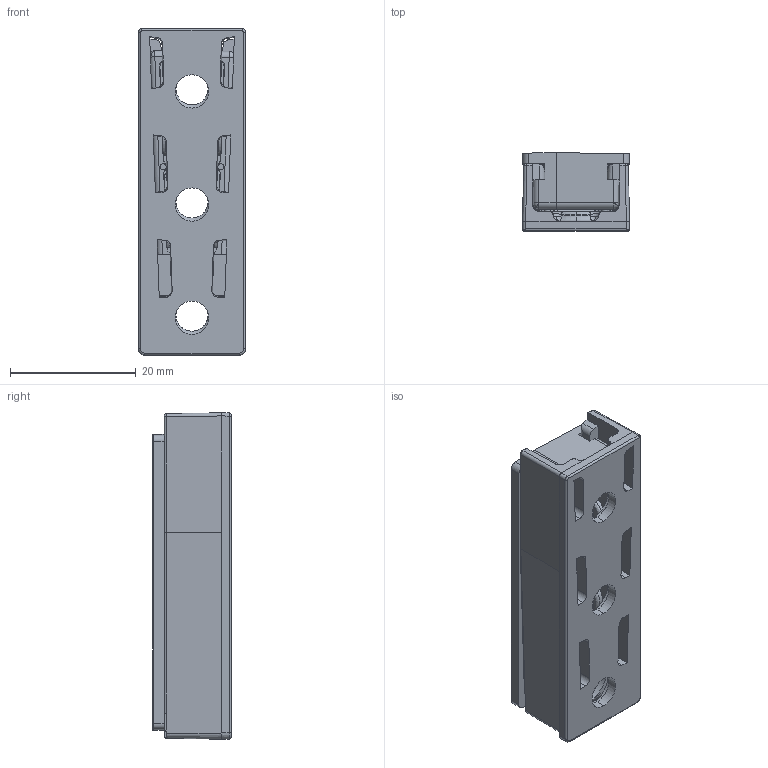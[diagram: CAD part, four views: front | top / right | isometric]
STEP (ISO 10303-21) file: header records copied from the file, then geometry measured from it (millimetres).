
FILE_DESCRIPTION(('STEP AP242'),'1');
FILE_NAME('OPO_49.101.10.stp','2025-03-31T14:37:43',(' '),(' '),'Spatial InterOp 3D',' ',' ');
FILE_SCHEMA(('AP242_MANAGED_MODEL_BASED_3D_ENGINEERING_MIM_LF {1 0 10303 442 1 1 4}'));
Length unit declared in the file: millimetre
Products named in the file (1): 1
Bounding box: 17 x 12.46 x 51.95 mm (x, y, z)
Volume: 6983.9 mm3; surface area: 7869.2 mm2
Topology: 2 solids, 2 shells, 483 faces, 1300 edges, 811 vertices
Faces by surface type: plane 172, cylinder 155, bspline 66, cone 30, sphere 24, torus 22, extrusion 14
Entity records: 24879 total; most frequent: CARTESIAN_POINT 9104, ORIENTED_EDGE 2586, DIRECTION 2421, EDGE_CURVE 1293, AXIS2_PLACEMENT_3D 868, VERTEX_POINT 811, VECTOR 685, LINE 671
